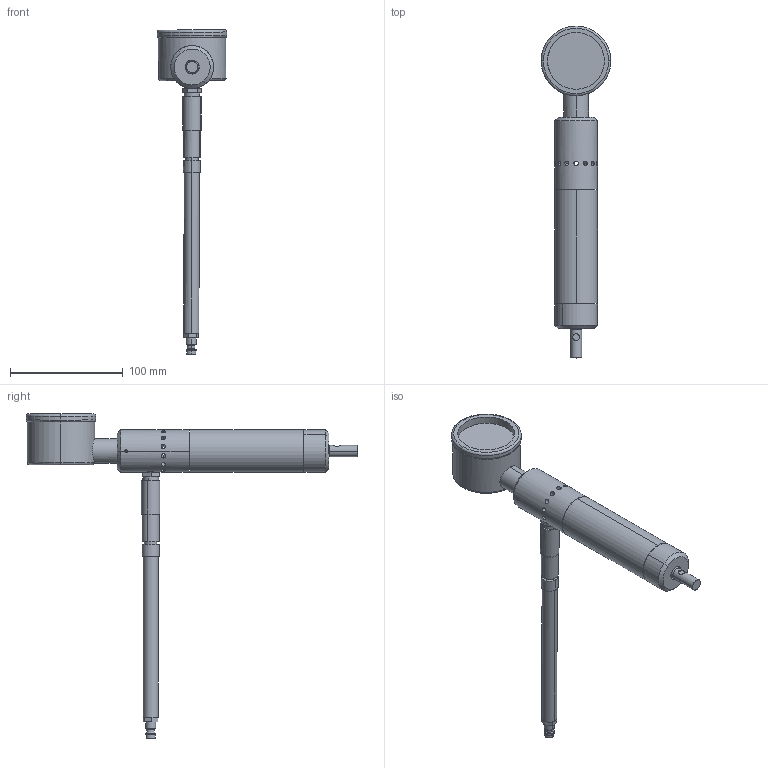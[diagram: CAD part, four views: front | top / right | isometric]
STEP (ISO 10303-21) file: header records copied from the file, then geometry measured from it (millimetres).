
FILE_DESCRIPTION (( 'STEP AP214' ), '1' );
FILE_NAME ('PLR12T.STEP', '2019-03-12T07:31:30', ( '' ), ( '' ), 'SwSTEP 2.0', 'SolidWorks 2018', '' );
FILE_SCHEMA (( 'AUTOMOTIVE_DESIGN' ));
Length unit declared in the file: millimetre
Products named in the file (12): Kopie von Motorblock PLR 11^PLR12T; PLR12T; Halterohr Standart; Rändelschraube; Schnellkupplung; Halterohr; Kopie von Tacho^PLR12T; Kopie von Distanzring PLR 11^PLR12T; Kopie von Verschluss PLR 11^PLR12T; Kopie von Deckel PLR 11^PLR12T; Kopie von Stator PLR 11^PLR12T; Kopie von Rotor PLR 11^PLR12T
Assembly tree (11 placements, depth 3):
  PLR12T
    Kopie von Motorblock PLR 11^PLR12T
    Kopie von Rotor PLR 11^PLR12T
    Kopie von Stator PLR 11^PLR12T
    Kopie von Deckel PLR 11^PLR12T
    Kopie von Verschluss PLR 11^PLR12T
    Kopie von Distanzring PLR 11^PLR12T
    Kopie von Tacho^PLR12T
    Halterohr Standart
      Halterohr
      Schnellkupplung
      Rändelschraube
Bounding box: 62.02 x 295 x 288.42 mm (x, y, z)
Volume: 283040.3 mm3; surface area: 104862.9 mm2
Topology: 10 solids, 10 shells, 242 faces, 514 edges, 317 vertices
Faces by surface type: cylinder 142, plane 72, cone 18, torus 9, bspline 1
Entity records: 8376 total; most frequent: CARTESIAN_POINT 2362, DIRECTION 1199, ORIENTED_EDGE 1024, EDGE_CURVE 512, AXIS2_PLACEMENT_3D 502, VERTEX_POINT 317, EDGE_LOOP 303, CIRCLE 246
